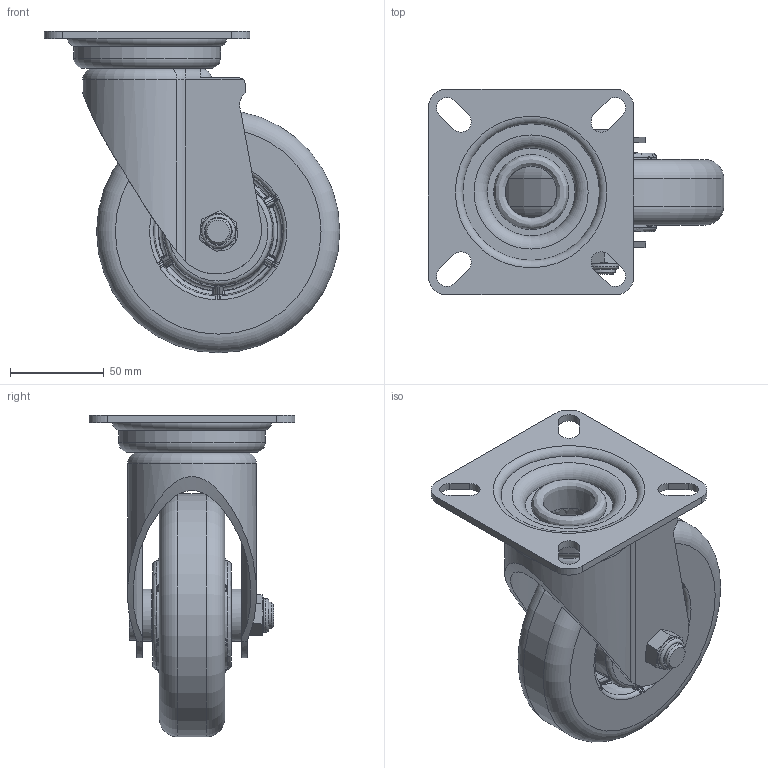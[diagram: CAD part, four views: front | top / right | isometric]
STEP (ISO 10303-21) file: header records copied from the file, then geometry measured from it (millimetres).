
FILE_DESCRIPTION(/* description */ (''),/* implementation_level */ '2;1');
FILE_NAME(/* name */ '25A19_5_F.stp',/* time_stamp */ '2022-08-27T13:00:09+08:00',/* author */ (''),/* organization */ (''),/* preprocessor_version */ 'ST-DEVELOPER v14',/* originating_system */ 'SIEMENS PLM Software NX 8.0',/* authorisation */ '');
FILE_SCHEMA (('AUTOMOTIVE_DESIGN { 1 0 10303 214 3 1 1 1 }'));
Length unit declared in the file: millimetre
Products named in the file (1): 25A19_5_F
Bounding box: 158 x 110 x 172 mm (x, y, z)
Volume: 554359.9 mm3; surface area: 149412.1 mm2
Topology: 1 solids, 2 shells, 793 faces, 1966 edges, 1216 vertices
Faces by surface type: plane 308, bspline 230, cylinder 136, cone 55, torus 55, revolution 4, sphere 4, extrusion 1
Full cylindrical faces by diameter (mm): 14 x1, 15 x2, 17 x1, 18 x1, 20.5 x1, 24.188 x3, 27 x1, 28 x2, 32.8 x1, 32.812 x2, 37.5 x1, 39.85 x2, 40 x2, 43.2 x1, 43.3 x1, 73.5 x1, 78.5 x1, 130 x1
Entity records: 26498 total; most frequent: CARTESIAN_POINT 10080, ORIENTED_EDGE 3726, DIRECTION 2878, EDGE_CURVE 1863, AXIS2_PLACEMENT_3D 1189, VERTEX_POINT 1180, EDGE_LOOP 919, ADVANCED_FACE 792
